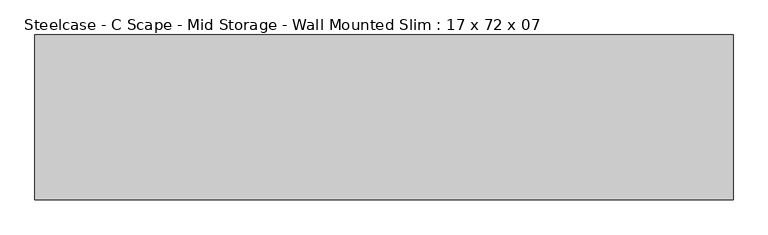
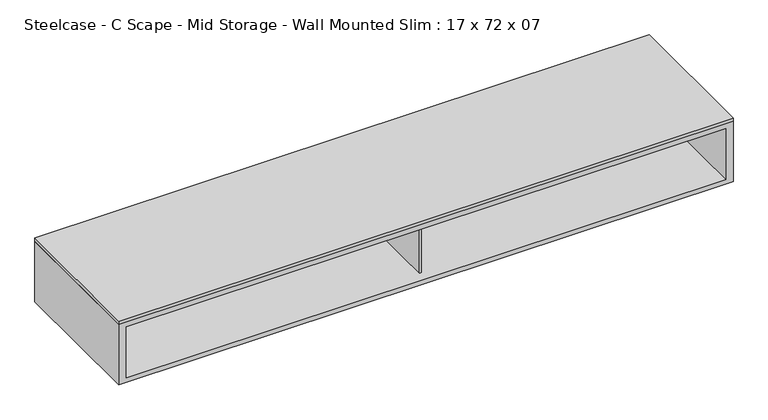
"""IFC4 building model written with IfcOpenShell, lengths in millimetres: furniture geometry, Steelcase - C Scape - Mid Storage - Wall Mounted Slim : 17 x 72 x 07."""

from ifc_helpers import new_model, si_unit, frame, origin, place, context, project, spatial, polyline, outline, extrude, faceted_brep, source, transform, mapped, element, save


def steelcase_c_scape_mid_storage_wall_mounted_slim_17_x_72_x_07_5ccaf574(model_context):
    return source(origin(), model_context, "Body", "SolidModel", [
        extrude(outline(polyline([(1828.8, 215.9), (1828.8, -215.9), (0.0, -215.9), (0.0, 215.9), (1828.8, 215.9)])), frame((0.0, 0.0, 1028.7), z_axis=(0.0, 0.0, 1.0), x_axis=(1.0, 0.0, 0.0)), (0.0, 0.0, 1.0), 10.16),
        extrude(outline(polyline([(911.225, -187.1471039), (911.225, 206.3755809), (917.575, 206.3755809), (917.575, -187.1471039), (911.225, -187.1471039)])), frame((0.0, 0.0, 853.4399855), z_axis=(0.0, 0.0, 1.0), x_axis=(1.0, 0.0, 0.0)), (0.0, 0.0, 1.0), 160.0200145),
        faceted_brep([(1828.8, -215.9, 1028.7), (0.0, -215.9, 1028.7), (0.0, -215.9, 838.2), (1828.8, -215.9, 838.2), (1806.702, -215.9, 1013.46), (1806.702, -215.9, 853.4399855), (21.9711633, -215.9, 853.4399855), (21.9711633, -215.9, 1013.46), (1828.8, 215.9, 1028.7), (1828.8, 215.9, 838.2), (0.0, 215.9, 838.2), (0.0, 215.9, 1028.7), (1806.702, 206.3755809, 1013.46), (1806.702, 206.3755809, 853.4399855), (904.0619767, 206.3755809, 853.4399855), (21.9711633, 206.3755809, 853.4399855), (21.9711633, 206.3755809, 1013.46), (904.0619767, 206.3755809, 1013.46)], [[[0, 1, 2, 3], [4, 5, 6, 7]], [[8, 9, 10, 11]], [[1, 0, 8, 11]], [[2, 1, 11, 10]], [[3, 2, 10, 9]], [[0, 3, 9, 8]], [[5, 4, 12, 13]], [[6, 5, 13, 14, 15]], [[7, 6, 15, 16]], [[4, 7, 16, 17, 12]], [[14, 17, 16, 15]], [[17, 14, 13, 12]]]),
    ])


if __name__ == "__main__":
    model = new_model("IFC4")
    model_context = context("Model", 3, world=origin())
    ifc_project = project(units=[si_unit("LENGTHUNIT", "METRE", prefix="MILLI")], contexts=[model_context])
    site = spatial("IfcSite", under=ifc_project)
    building = spatial("IfcBuilding", under=site)
    placement = place(None, origin())
    steelcase_c_scape_mid_storage_wall_mounted_slim_17_x_72_x_07_shape = steelcase_c_scape_mid_storage_wall_mounted_slim_17_x_72_x_07_5ccaf574(model_context)
    element("IfcFurniture", 1, ObjectType="Steelcase - C Scape - Mid Storage - Wall Mounted Slim : 17 x 72 x 07", at=placement, inside=building, context=model_context, shape_type="MappedRepresentation", body=[
        mapped(steelcase_c_scape_mid_storage_wall_mounted_slim_17_x_72_x_07_shape, transform((0.0, 0.0, 0.0), x_axis=(1.0, 0.0, 0.0), y_axis=(0.0, 1.0, 0.0), z_axis=(0.0, 0.0, 1.0))),
    ])
    save(model, "model.ifc")
